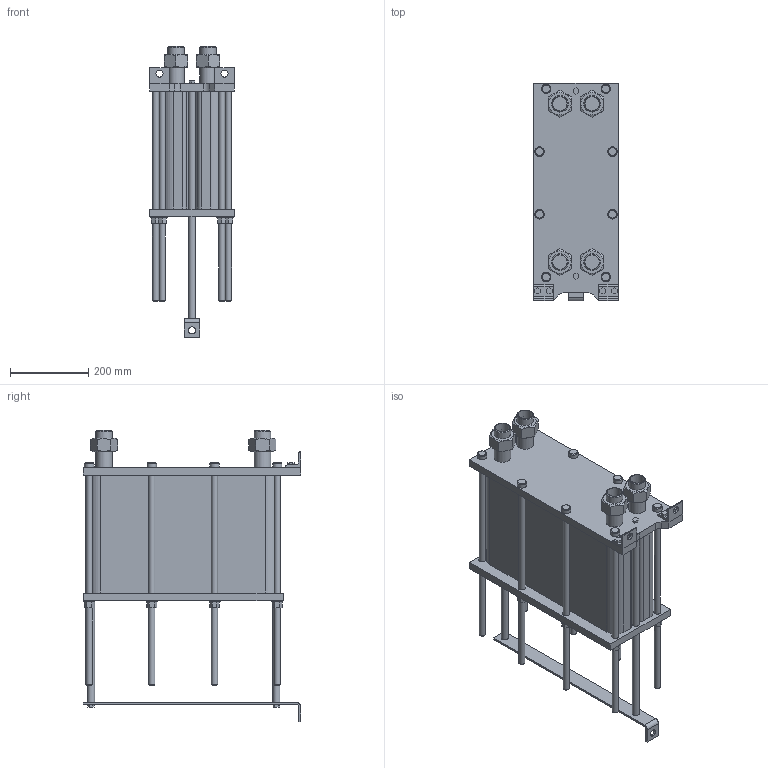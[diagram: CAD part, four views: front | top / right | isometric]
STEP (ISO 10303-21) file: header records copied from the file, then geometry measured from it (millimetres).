
FILE_DESCRIPTION(/* description */ (''),/* implementation_level */ '2;1');
FILE_NAME(/* name */ 'C:\Users\zhuro\Desktop\ENCO\TO\ЭН-004\ЭН-0,5-004-97-1.stp',/* time_stamp */ '2022-06-06T10:52:03+03:00',/* author */ ('zhuro'),/* organization */ (''),/* preprocessor_version */ 'ST-DEVELOPER v18.1',/* originating_system */ 'Autodesk Inventor 2022',/* authorisation */ '');
FILE_SCHEMA (('AUTOMOTIVE_DESIGN { 1 0 10303 214 3 1 1 }'));
Length unit declared in the file: millimetre
Products named in the file (1): ЭН-0,5-004-97-1
Bounding box: 216 x 555 x 742.6 mm (x, y, z)
Volume: 28295350.7 mm3; surface area: 1609786.2 mm2
Topology: 40 solids, 40 shells, 403 faces, 865 edges, 574 vertices
Faces by surface type: plane 272, cylinder 103, cone 28
Full cylindrical faces by diameter (mm): 10 x4, 16 x16, 18 x29, 20 x2, 24 x8, 28 x8, 36.3 x5, 42.3 x9
Entity records: 11137 total; most frequent: CARTESIAN_POINT 1939, DIRECTION 1879, ORIENTED_EDGE 1730, EDGE_CURVE 865, AXIS2_PLACEMENT_3D 658, VERTEX_POINT 574, LINE 563, VECTOR 563
